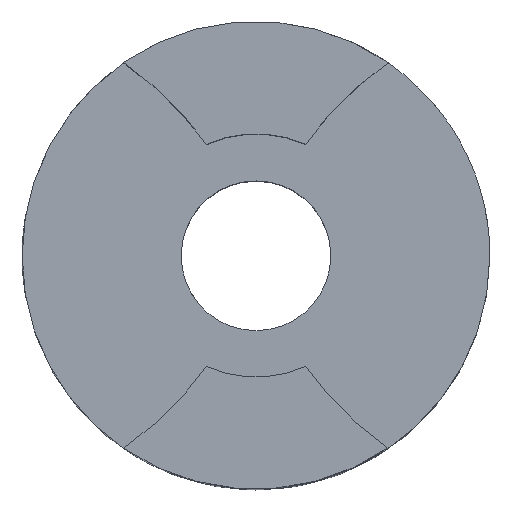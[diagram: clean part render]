
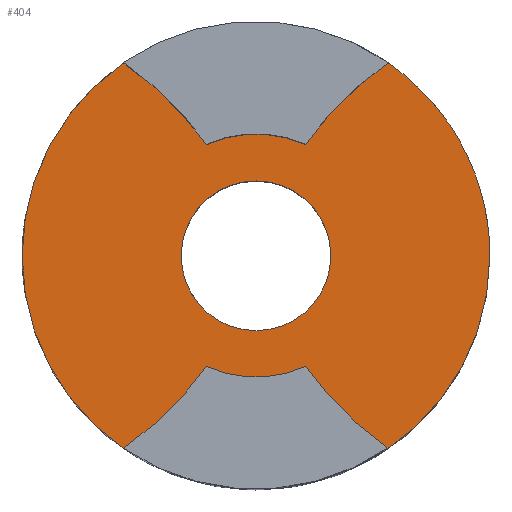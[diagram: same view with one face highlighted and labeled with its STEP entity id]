
A CAD part, top view. The second image highlights one B-rep face of the part: STEP entity #404.
In plain terms, the highlighted planar face has unit normal (0, 0, 1).
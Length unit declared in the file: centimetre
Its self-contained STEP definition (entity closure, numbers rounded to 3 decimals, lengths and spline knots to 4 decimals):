
#158=VERTEX_POINT('',#1941);
#159=VERTEX_POINT('',#1946);
#162=VERTEX_POINT('',#1954);
#164=VERTEX_POINT('',#1970);
#165=VERTEX_POINT('',#1975);
#168=VERTEX_POINT('',#1991);
#169=VERTEX_POINT('',#1993);
#172=VERTEX_POINT('',#2011);
#174=VERTEX_POINT('',#2020);
#176=VERTEX_POINT('',#2026);
#177=VERTEX_POINT('',#2044);
#179=VERTEX_POINT('',#2056);
#188=B_SPLINE_CURVE_WITH_KNOTS('',3,(#1942,#1943,#1944,#1945),
 .UNSPECIFIED.,.F.,.U.,(4,4),(-0.009,0.982),
 .UNSPECIFIED.);
#190=B_SPLINE_CURVE_WITH_KNOTS('',3,(#1971,#1972,#1973,#1974),
 .UNSPECIFIED.,.F.,.U.,(4,4),(0.0034,1.),.UNSPECIFIED.);
#193=B_SPLINE_CURVE_WITH_KNOTS('',3,(#2012,#2013,#2014,#2015),
 .UNSPECIFIED.,.F.,.U.,(4,4),(-0.0056,0.9888),
 .UNSPECIFIED.);
#196=B_SPLINE_CURVE_WITH_KNOTS('',3,(#2045,#2046,#2047,#2048),
 .UNSPECIFIED.,.F.,.U.,(4,4),(0.,1.),.UNSPECIFIED.);
#205=EDGE_CURVE('',#159,#158,#188,.T.);
#210=EDGE_CURVE('',#158,#162,#625,.T.);
#213=EDGE_CURVE('',#165,#164,#190,.T.);
#216=EDGE_CURVE('',#164,#159,#627,.T.);
#220=EDGE_CURVE('',#169,#168,#630,.T.);
#225=EDGE_CURVE('',#168,#172,#193,.F.);
#228=EDGE_CURVE('',#172,#174,#474,.T.);
#231=EDGE_CURVE('',#174,#176,#633,.T.);
#234=EDGE_CURVE('',#176,#177,#196,.F.);
#236=EDGE_CURVE('',#169,#162,#628,.T.);
#237=EDGE_CURVE('',#165,#177,#628,.T.);
#239=EDGE_CURVE('',#179,#179,#635,.T.);
#315=ORIENTED_EDGE('',*,*,#210,.T.);
#316=ORIENTED_EDGE('',*,*,#236,.F.);
#317=ORIENTED_EDGE('',*,*,#220,.T.);
#318=ORIENTED_EDGE('',*,*,#225,.T.);
#319=ORIENTED_EDGE('',*,*,#228,.T.);
#320=ORIENTED_EDGE('',*,*,#231,.T.);
#321=ORIENTED_EDGE('',*,*,#234,.T.);
#322=ORIENTED_EDGE('',*,*,#237,.F.);
#323=ORIENTED_EDGE('',*,*,#213,.T.);
#324=ORIENTED_EDGE('',*,*,#216,.T.);
#325=ORIENTED_EDGE('',*,*,#205,.T.);
#326=ORIENTED_EDGE('',*,*,#239,.F.);
#354=EDGE_LOOP('',(#315,#316,#317,#318,#319,#320,#321,#322,#323,#324,#325));
#355=EDGE_LOOP('',(#326));
#383=FACE_BOUND('',#354,.T.);
#384=FACE_BOUND('',#355,.T.);
#404=ADVANCED_FACE('',(#383,#384),#1267,.T.);
#474=LINE('',#2021,#1250);
#625=CIRCLE('',#1175,1.25);
#627=CIRCLE('',#1178,0.65);
#628=CIRCLE('',#1181,1.25);
#630=CIRCLE('',#1184,1.25);
#633=CIRCLE('',#1189,0.65);
#635=CIRCLE('',#1195,0.4);
#1175=AXIS2_PLACEMENT_3D('',#1955,#1405,#1406);
#1178=AXIS2_PLACEMENT_3D('',#1982,#1412,#1413);
#1181=AXIS2_PLACEMENT_3D('',#1985,#1416,#1417);
#1184=AXIS2_PLACEMENT_3D('',#1992,#1423,#1424);
#1189=AXIS2_PLACEMENT_3D('',#2027,#1438,#1439);
#1195=AXIS2_PLACEMENT_3D('',#2055,#1448,#1449);
#1197=AXIS2_PLACEMENT_3D('',#2059,#1452,$);
#1250=VECTOR('',#1432,1.);
#1267=PLANE('',#1197);
#1405=DIRECTION('',(0.,0.,-1.));
#1406=DIRECTION('',(1.25,0.,0.));
#1412=DIRECTION('',(0.,0.,1.));
#1413=DIRECTION('',(0.65,0.,0.));
#1416=DIRECTION('',(0.,0.,-1.));
#1417=DIRECTION('',(1.25,0.,0.));
#1423=DIRECTION('',(0.,0.,-1.));
#1424=DIRECTION('',(1.25,0.,0.));
#1432=DIRECTION('',(-0.913,0.407,0.));
#1438=DIRECTION('',(0.,0.,1.));
#1439=DIRECTION('',(0.65,0.,0.));
#1448=DIRECTION('',(0.,0.,1.));
#1449=DIRECTION('',(0.4,0.,0.));
#1452=DIRECTION('',(0.,0.,1.));
#1941=CARTESIAN_POINT('',(0.7055,-1.0288,1.125));
#1942=CARTESIAN_POINT('',(0.265,-0.5935,1.125));
#1943=CARTESIAN_POINT('',(0.3543,-0.7256,1.125));
#1944=CARTESIAN_POINT('',(0.5369,-0.9176,1.125));
#1945=CARTESIAN_POINT('',(0.7055,-1.0288,1.125));
#1946=CARTESIAN_POINT('',(0.265,-0.5935,1.125));
#1954=CARTESIAN_POINT('',(-0.4846,-1.1522,1.125));
#1955=CARTESIAN_POINT('',(-0.0028,0.0012,1.125));
#1970=CARTESIAN_POINT('',(-0.265,-0.5935,1.125));
#1971=CARTESIAN_POINT('',(-0.7084,-1.0306,1.125));
#1972=CARTESIAN_POINT('',(-0.539,-0.9198,1.125));
#1973=CARTESIAN_POINT('',(-0.3547,-0.7263,1.125));
#1974=CARTESIAN_POINT('',(-0.265,-0.5935,1.125));
#1975=CARTESIAN_POINT('',(-0.7078,-1.0303,1.125));
#1982=CARTESIAN_POINT('',(0.,0.,
1.125));
#1985=CARTESIAN_POINT('',(0.,0.,1.125));
#1991=CARTESIAN_POINT('',(0.7073,1.0299,1.125));
#1992=CARTESIAN_POINT('',(-0.0028,0.0012,1.125));
#1993=CARTESIAN_POINT('',(0.4845,1.1523,1.125));
#2011=CARTESIAN_POINT('',(0.265,0.5935,1.125));
#2012=CARTESIAN_POINT('',(0.265,0.5935,1.125));
#2013=CARTESIAN_POINT('',(0.3546,0.726,1.125));
#2014=CARTESIAN_POINT('',(0.5382,0.9189,1.125));
#2015=CARTESIAN_POINT('',(0.7073,1.0299,1.125));
#2020=CARTESIAN_POINT('',(0.2646,0.5937,1.125));
#2021=CARTESIAN_POINT('',(0.2647,0.5937,1.125));
#2026=CARTESIAN_POINT('',(-0.265,0.5935,1.125));
#2027=CARTESIAN_POINT('',(0.,0.,
1.125));
#2044=CARTESIAN_POINT('',(-0.7078,1.0303,1.125));
#2045=CARTESIAN_POINT('',(-0.7101,1.0318,1.125));
#2046=CARTESIAN_POINT('',(-0.5403,0.9211,1.125));
#2047=CARTESIAN_POINT('',(-0.3551,0.7268,1.125));
#2048=CARTESIAN_POINT('',(-0.265,0.5935,1.125));
#2055=CARTESIAN_POINT('',(0.,0.,1.125));
#2056=CARTESIAN_POINT('',(0.4,0.,1.125));
#2059=CARTESIAN_POINT('',(0.,0.,1.125));
